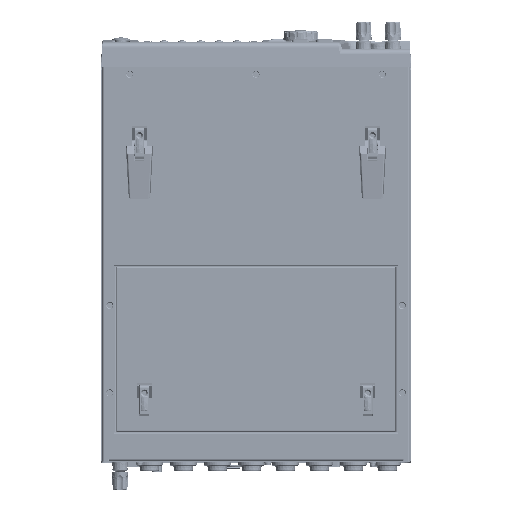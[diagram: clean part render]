
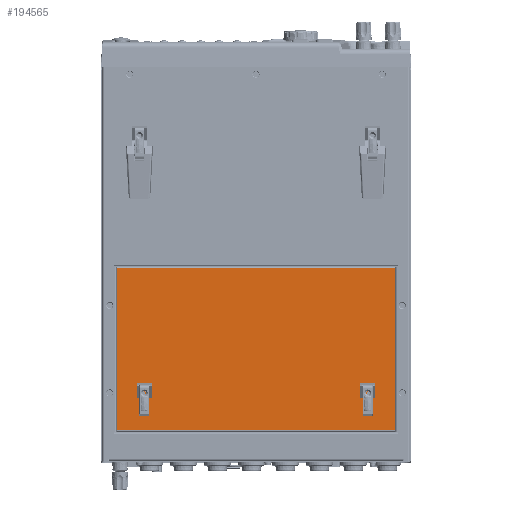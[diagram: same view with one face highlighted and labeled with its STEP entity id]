
A CAD part, front view. The second image highlights one B-rep face of the part: STEP entity #194565.
In plain terms, the highlighted planar face has unit normal (0, -1, 0).
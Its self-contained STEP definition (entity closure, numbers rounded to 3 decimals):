
#193294=CARTESIAN_POINT('',(115.,-51.5,-355.));
#193295=DIRECTION('',(0.,1.,0.));
#193296=DIRECTION('',(-1.,0.,0.));
#193297=AXIS2_PLACEMENT_3D('',#193294,#193295,#193296);
#193299=CARTESIAN_POINT('',(115.,-51.5,-355.));
#193300=DIRECTION('',(0.,1.,0.));
#193301=DIRECTION('',(1.,0.,0.));
#193302=AXIS2_PLACEMENT_3D('',#193299,#193300,#193301);
#193304=CARTESIAN_POINT('',(-115.,-51.5,-355.));
#193305=DIRECTION('',(0.,1.,0.));
#193306=DIRECTION('',(-1.,0.,0.));
#193307=AXIS2_PLACEMENT_3D('',#193304,#193305,#193306);
#193309=CARTESIAN_POINT('',(-115.,-51.5,-355.));
#193310=DIRECTION('',(0.,1.,0.));
#193311=DIRECTION('',(1.,0.,0.));
#193312=AXIS2_PLACEMENT_3D('',#193309,#193310,#193311);
#193314=CARTESIAN_POINT('',(115.,-51.5,-335.));
#193315=DIRECTION('',(0.,-1.,0.));
#193316=DIRECTION('',(-1.,0.,0.));
#193317=AXIS2_PLACEMENT_3D('',#193314,#193315,#193316);
#193319=CARTESIAN_POINT('',(115.,-51.5,-335.));
#193320=DIRECTION('',(0.,-1.,0.));
#193321=DIRECTION('',(1.,0.,0.));
#193322=AXIS2_PLACEMENT_3D('',#193319,#193320,#193321);
#193324=CARTESIAN_POINT('',(-115.,-51.5,-335.));
#193325=DIRECTION('',(0.,-1.,0.));
#193326=DIRECTION('',(-1.,0.,0.));
#193327=AXIS2_PLACEMENT_3D('',#193324,#193325,#193326);
#193329=CARTESIAN_POINT('',(-115.,-51.5,-335.));
#193330=DIRECTION('',(0.,-1.,0.));
#193331=DIRECTION('',(1.,0.,0.));
#193332=AXIS2_PLACEMENT_3D('',#193329,#193330,#193331);
#193338=DIRECTION('',(0.,0.,-1.));
#193339=VECTOR('',#193338,166.7);
#193340=CARTESIAN_POINT('',(143.4,-51.5,-206.8));
#193341=LINE('',#193340,#193339);
#193377=DIRECTION('',(-1.,0.,0.));
#193378=VECTOR('',#193377,286.8);
#193379=CARTESIAN_POINT('',(143.4,-51.5,-206.8));
#193380=LINE('',#193379,#193378);
#193434=DIRECTION('',(0.,0.,1.));
#193435=VECTOR('',#193434,166.7);
#193436=CARTESIAN_POINT('',(-143.4,-51.5,-373.5));
#193437=LINE('',#193436,#193435);
#193473=DIRECTION('',(1.,0.,0.));
#193474=VECTOR('',#193473,286.8);
#193475=CARTESIAN_POINT('',(-143.4,-51.5,-373.5));
#193476=LINE('',#193475,#193474);
#194414=CARTESIAN_POINT('',(113.4,-51.5,-355.));
#194415=CARTESIAN_POINT('',(116.6,-51.5,-355.));
#194416=VERTEX_POINT('',#194414);
#194417=VERTEX_POINT('',#194415);
#194418=CARTESIAN_POINT('',(-116.6,-51.5,-355.));
#194419=CARTESIAN_POINT('',(-113.4,-51.5,-355.));
#194420=VERTEX_POINT('',#194418);
#194421=VERTEX_POINT('',#194419);
#194434=CARTESIAN_POINT('',(113.75,-51.5,-335.));
#194435=CARTESIAN_POINT('',(116.25,-51.5,-335.));
#194436=VERTEX_POINT('',#194434);
#194437=VERTEX_POINT('',#194435);
#194450=CARTESIAN_POINT('',(-116.25,-51.5,-335.));
#194451=CARTESIAN_POINT('',(-113.75,-51.5,-335.));
#194452=VERTEX_POINT('',#194450);
#194453=VERTEX_POINT('',#194451);
#194462=CARTESIAN_POINT('',(143.4,-51.5,-373.5));
#194463=VERTEX_POINT('',#194462);
#194466=CARTESIAN_POINT('',(-143.4,-51.5,-373.5));
#194467=VERTEX_POINT('',#194466);
#194478=CARTESIAN_POINT('',(-143.4,-51.5,-206.8));
#194479=VERTEX_POINT('',#194478);
#194482=CARTESIAN_POINT('',(143.4,-51.5,-206.8));
#194483=VERTEX_POINT('',#194482);
#194526=CARTESIAN_POINT('',(0.,-51.5,0.));
#194527=DIRECTION('',(0.,1.,0.));
#194528=DIRECTION('',(1.,0.,0.));
#194529=AXIS2_PLACEMENT_3D('',#194526,#194527,#194528);
#194530=PLANE('',#194529);
#194532=ORIENTED_EDGE('',*,*,#194531,.T.);
#194534=ORIENTED_EDGE('',*,*,#194533,.F.);
#194536=ORIENTED_EDGE('',*,*,#194535,.T.);
#194538=ORIENTED_EDGE('',*,*,#194537,.F.);
#194539=EDGE_LOOP('',(#194532,#194534,#194536,#194538));
#194540=FACE_OUTER_BOUND('',#194539,.F.);
#194542=ORIENTED_EDGE('',*,*,#194541,.F.);
#194544=ORIENTED_EDGE('',*,*,#194543,.F.);
#194545=EDGE_LOOP('',(#194542,#194544));
#194546=FACE_BOUND('',#194545,.F.);
#194548=ORIENTED_EDGE('',*,*,#194547,.F.);
#194550=ORIENTED_EDGE('',*,*,#194549,.F.);
#194551=EDGE_LOOP('',(#194548,#194550));
#194552=FACE_BOUND('',#194551,.F.);
#194554=ORIENTED_EDGE('',*,*,#194553,.T.);
#194556=ORIENTED_EDGE('',*,*,#194555,.T.);
#194557=EDGE_LOOP('',(#194554,#194556));
#194558=FACE_BOUND('',#194557,.F.);
#194560=ORIENTED_EDGE('',*,*,#194559,.T.);
#194562=ORIENTED_EDGE('',*,*,#194561,.T.);
#194563=EDGE_LOOP('',(#194560,#194562));
#194564=FACE_BOUND('',#194563,.F.);
#194565=ADVANCED_FACE('',(#194540,#194546,#194552,#194558,#194564),#194530,.F.);
#193298=CIRCLE('',#193297,1.6);
#193303=CIRCLE('',#193302,1.6);
#193308=CIRCLE('',#193307,1.6);
#193313=CIRCLE('',#193312,1.6);
#193318=CIRCLE('',#193317,1.25);
#193323=CIRCLE('',#193322,1.25);
#193328=CIRCLE('',#193327,1.25);
#193333=CIRCLE('',#193332,1.25);
#194531=EDGE_CURVE('',#194483,#194463,#193341,.T.);
#194533=EDGE_CURVE('',#194467,#194463,#193476,.T.);
#194535=EDGE_CURVE('',#194467,#194479,#193437,.T.);
#194537=EDGE_CURVE('',#194483,#194479,#193380,.T.);
#194541=EDGE_CURVE('',#194416,#194417,#193298,.T.);
#194543=EDGE_CURVE('',#194417,#194416,#193303,.T.);
#194547=EDGE_CURVE('',#194420,#194421,#193308,.T.);
#194549=EDGE_CURVE('',#194421,#194420,#193313,.T.);
#194553=EDGE_CURVE('',#194436,#194437,#193318,.T.);
#194555=EDGE_CURVE('',#194437,#194436,#193323,.T.);
#194559=EDGE_CURVE('',#194452,#194453,#193328,.T.);
#194561=EDGE_CURVE('',#194453,#194452,#193333,.T.);
